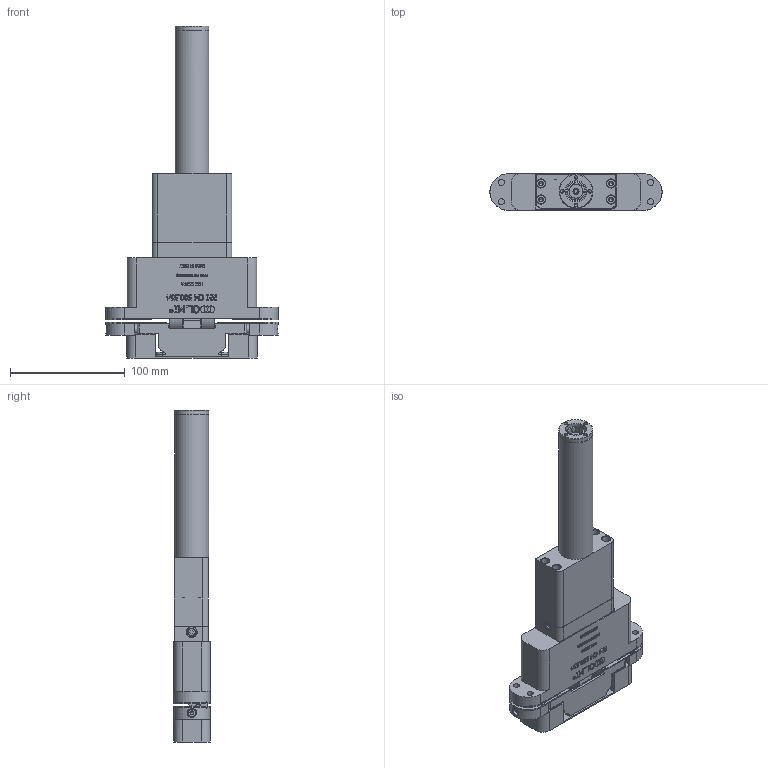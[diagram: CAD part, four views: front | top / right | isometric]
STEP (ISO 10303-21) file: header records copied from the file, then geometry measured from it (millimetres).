
FILE_DESCRIPTION((''),'2;1');
FILE_NAME('C:\Documents and Settings\pc02.OLMI.000\Desktop\500.514-01.stp','2016-09-22T11:06:08',('pc02'),(''),'Autodesk Inventor 2011','Autodesk Inventor 2011','');
FILE_SCHEMA(('AUTOMOTIVE_DESIGN { 1 0 10303 214 1 1 1 1 }'));
Length unit declared in the file: millimetre
Products named in the file (12): 500.514-01; 3D.STD.002540.00; 3D.STD.002236.00; 3D.STD.002542.00; 3D.STD.002543.00; 3D.STD.002544.00; 3D.STD.002545.00; 3D.STD.001977.00; 3D.STD.002548.00; 700.737-00; 700.736-00; 3D.STD.002260.00
Assembly tree (21 placements, depth 2):
  500.514-01
    3D.STD.002540.00
    3D.STD.002236.00  x2
    3D.STD.002542.00
    3D.STD.002543.00
    3D.STD.002544.00
    3D.STD.002545.00
    3D.STD.001977.00
    3D.STD.002548.00
    700.737-00  x2
    700.736-00  x2
    3D.STD.002260.00  x8
Bounding box: 150 x 31.82 x 289.26 mm (x, y, z)
Volume: 466542.3 mm3; surface area: 139602.7 mm2
Topology: 21 solids, 22 shells, 2575 faces, 6716 edges, 4331 vertices
Faces by surface type: plane 1738, cylinder 350, bspline 226, cone 214, torus 47
Full cylindrical faces by diameter (mm): 0.9 x2, 1 x4, 1.1 x2, 2.5 x8, 2.693 x8, 3 x8, 3.1 x4, 3.4 x4, 3.5 x1, 3.6 x8, 3.98 x3, 4 x9, 4.02 x3, 4.16 x2, 4.161 x11, 4.2 x4, 4.5 x2, 5 x4, 5.1 x1, 5.2 x8, 5.3 x8, 5.5 x11, 6.8 x4, 7 x2, 7.2 x2, 7.5 x4, 8 x2, 8.4 x2, 9.1 x2, 9.5 x11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
Entity records: 64168 total; most frequent: CARTESIAN_POINT 14153, ORIENTED_EDGE 10380, DIRECTION 9394, EDGE_CURVE 5190, VECTOR 3882, LINE 3882, VERTEX_POINT 3464, AXIS2_PLACEMENT_3D 2756
